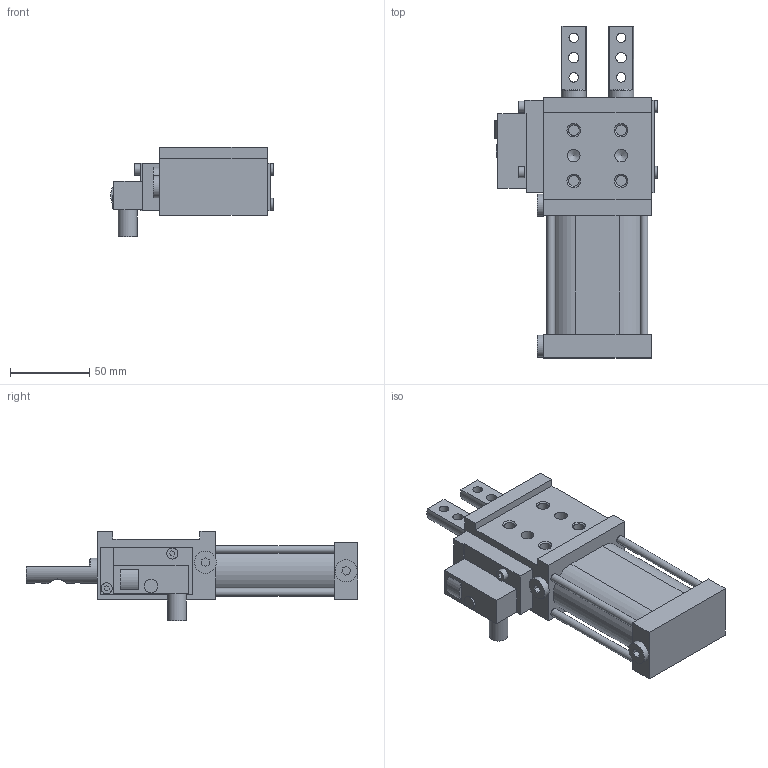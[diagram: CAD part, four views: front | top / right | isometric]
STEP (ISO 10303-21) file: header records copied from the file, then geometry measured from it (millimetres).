
FILE_DESCRIPTION((''),'2;1');
FILE_NAME('S:\Tom\INVENTOR FILES\AUTOMOTIVE\VEP\LOCATORS\DCPD Step Files\DCPD\SEC CAD\XLP40-2-2-ES1-40-S22.stp','2014-09-02T12:36:26',('carl'),(''),'Autodesk Inventor 2013','Autodesk Inventor 2013','');
FILE_SCHEMA(('AUTOMOTIVE_DESIGN { 1 0 10303 214 1 1 1 1 }'));
Length unit declared in the file: millimetre
Products named in the file (10): Assembly22; Part228; Part230; Part232; Part234; Part236; Part238; Part240; Part242; Part244
Assembly tree (9 placements, depth 2):
  Assembly22
    Part228
    Part230
    Part232
    Part234
    Part236
    Part238
    Part240
    Part242
    Part244
Bounding box: 103.1 x 210 x 56.5 mm (x, y, z)
Volume: 407279.2 mm3; surface area: 83637.3 mm2
Topology: 9 solids, 9 shells, 193 faces, 406 edges, 270 vertices
Faces by surface type: plane 128, cylinder 51, cone 14
Full cylindrical faces by diameter (mm): 3.3 x4, 4 x4, 5 x4, 6 x4, 6.6 x2, 6.8 x4, 7 x2, 7.6 x2, 8 x2, 8.5 x1, 8.8 x4, 9.2 x2, 10 x2, 12 x3, 14 x2, 16 x6
Entity records: 5274 total; most frequent: CARTESIAN_POINT 1014, DIRECTION 850, ORIENTED_EDGE 656, EDGE_CURVE 328, AXIS2_PLACEMENT_3D 320, EDGE_LOOP 308, VERTEX_POINT 252, VECTOR 210
